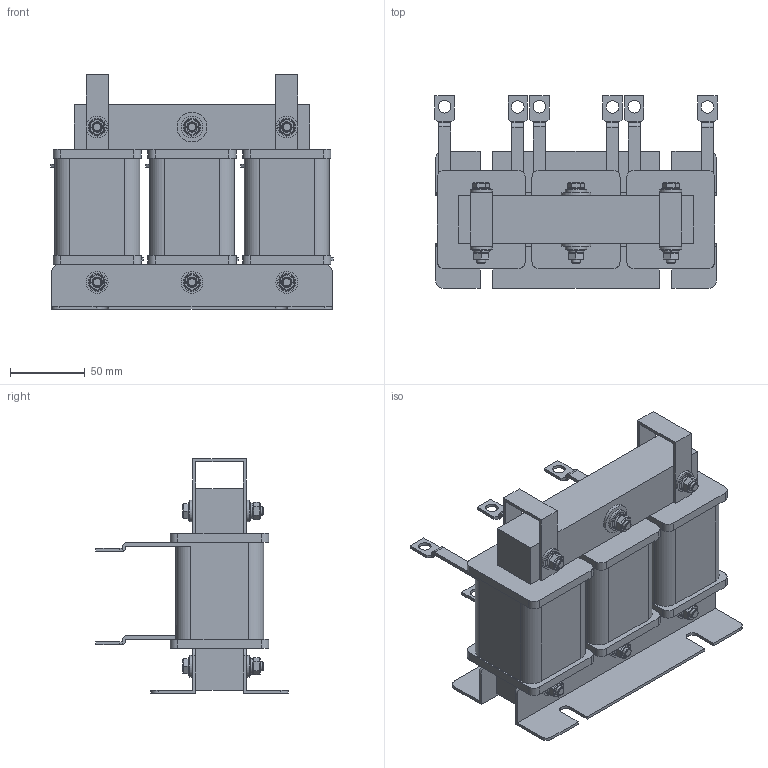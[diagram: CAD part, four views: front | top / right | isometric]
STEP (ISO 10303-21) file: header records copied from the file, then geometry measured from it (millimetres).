
FILE_DESCRIPTION(('STEP AP203'), '1');
FILE_NAME('栖闉罻 _ IMF-22_45-4', '', ('UNSPECIFIED'), ('UNSPECIFIED'), 'ASCON STEP Converter 1.6', 'ASCON Math Kernel', '');
FILE_SCHEMA(('CONFIG_CONTROL_DESIGN'));
Length unit declared in the file: millimetre
Products named in the file (13): IMF-22_45-4
Assembly tree (59 placements, depth 2):
  IMF-22_45-4
    IMF-22_45-4
    IMF-22_45-4  x2
    IMF-22_45-4  x6
    IMF-22_45-4  x3
    IMF-22_45-4
    IMF-22_45-4  x2
    IMF-22_45-4  x2
    IMF-22_45-4  x12
    IMF-22_45-4  x12
    IMF-22_45-4  x6
    IMF-22_45-4  x6
    IMF-22_45-4  x6
Bounding box: 189 x 129 x 157 mm (x, y, z)
Volume: 1141282.8 mm3; surface area: 242949.6 mm2
Topology: 59 solids, 59 shells, 690 faces, 1536 edges, 970 vertices
Faces by surface type: plane 502, cylinder 158, cone 18, torus 12
Full cylindrical faces by diameter (mm): 6 x54, 8.4 x6, 12 x12, 14.6 x12, 20 x2
Entity records: 6969 total; most frequent: CARTESIAN_POINT 1151, DIRECTION 926, ORIENTED_EDGE 762, EDGE_CURVE 381, AXIS2_PLACEMENT_3D 324, LINE 278, VECTOR 278, VERTEX_POINT 261
